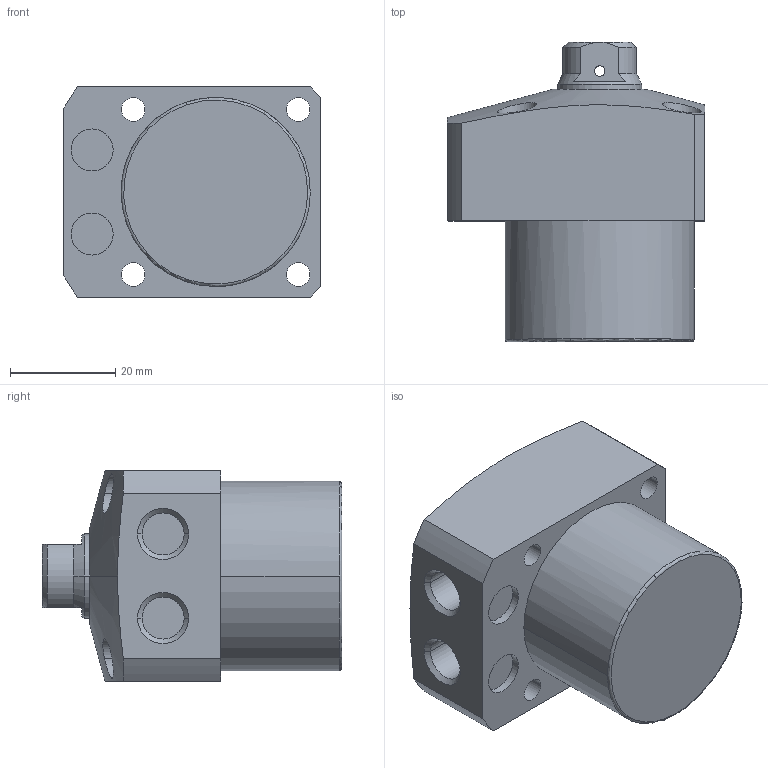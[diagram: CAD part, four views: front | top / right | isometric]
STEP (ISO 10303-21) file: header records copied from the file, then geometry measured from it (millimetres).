
FILE_DESCRIPTION((' '),'2;1');
FILE_NAME( 'TLL-036CB-（1-14）.STEP.stp', '2025-10-24T16:39:39', (' '), ('--- Datakit www.datakit.com---'), ' Datakit CrossCadWare V2024.1 Dec 21 2023', 'Mastercam 2025', ' ');
FILE_SCHEMA(('AUTOMOTIVE_DESIGN { 1 0 10303 214 1 1 1 1 }'));
Length unit declared in the file: millimetre
Products named in the file (1): TLL-036CB-（1-14）
Bounding box: 49 x 57 x 40 mm (x, y, z)
Volume: 64831.3 mm3; surface area: 12809.3 mm2
Topology: 1 solids, 1 shells, 76 faces, 227 edges, 162 vertices
Faces by surface type: cylinder 38, plane 22, cone 14, torus 2
Entity records: 5612 total; most frequent: CARTESIAN_POINT 3460, DIRECTION 454, ORIENTED_EDGE 450, EDGE_CURVE 225, AXIS2_PLACEMENT_3D 194, VERTEX_POINT 162, CIRCLE 117, EDGE_LOOP 99
